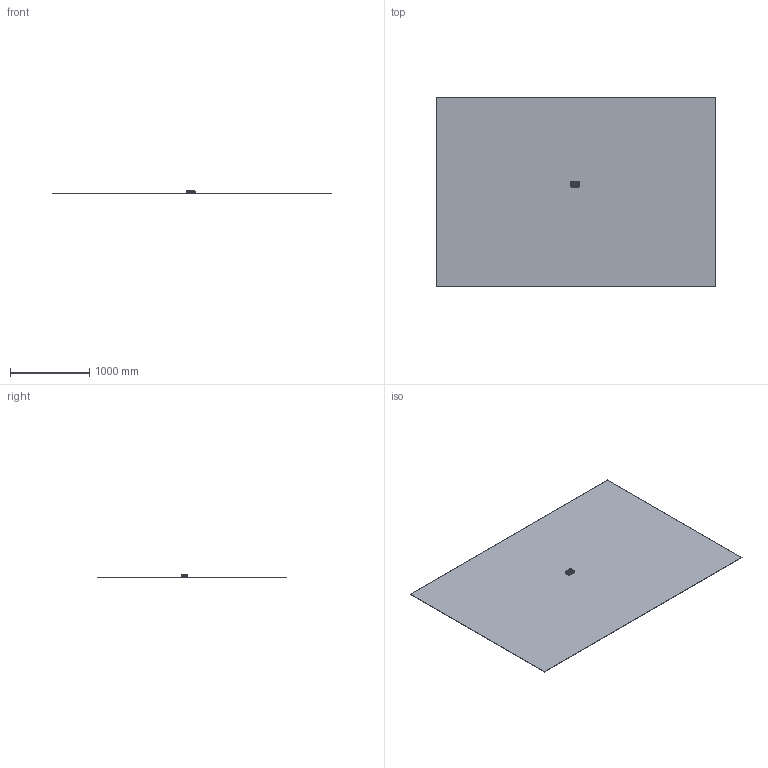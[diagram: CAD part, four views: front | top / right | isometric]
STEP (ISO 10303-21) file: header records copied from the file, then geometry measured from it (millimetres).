
FILE_DESCRIPTION(/* description */ (''),/* implementation_level */ '2;1');
FILE_NAME(/* name */ 'Pi 5 case v5.step',/* time_stamp */ '2024-09-08T10:51:01+01:00',/* author */ (''),/* organization */ (''),/* preprocessor_version */ 'ST-DEVELOPER v20',/* originating_system */ 'Autodesk Translation Framework v13.14.0.145',/* authorisation */ '');
FILE_SCHEMA (('AUTOMOTIVE_DESIGN { 1 0 10303 214 3 1 1 }'));
Products named in the file (35): Pi 5 case; CASE; TOP; FRONT; TOP (1); BOTTOM; M2.5X10_SELF_TAPING (2); M2.5X10_SELF_TAPING (1); M2.5X10_SELF_TAPING; M2.5X10_SELF_TAPING (5); M3X12_SHCS; 40x40x10 DC Fan v1; M3x5x4 heat-Insert; ACCESS_COVER; M2.5X10_SELF_TAPING (4); M2.5X10_SELF_TAPING (3); PI5_Holder; Pi5_mount; M2.5X8_SELF_TAPING; RP-004882-DD - Pi 5 Mechanical Reference 3D model Iss1; PCB_for REF 060923; GPIO Header for REF; Micro HDMI for REF; SD CARD for REF; USB-C for REF; RJ45 for REF; USB for REF; PCIe for REF; CAM-DISP for REF; LED for REF; BAT Header for REF; PoE Header for REF; FAN Header for REF; SWITCH for REF; UART for REF
Assembly tree (53 placements, depth 4):
  Pi 5 case
    CASE
      TOP
        FRONT
        TOP (1)
      BOTTOM
        M2.5X10_SELF_TAPING (2)
        M2.5X10_SELF_TAPING (1)
      M2.5X10_SELF_TAPING (5)  x3
      M2.5X10_SELF_TAPING  x6
      M3X12_SHCS  x4
      40x40x10 DC Fan v1
      M3x5x4 heat-Insert  x4
    ACCESS_COVER
      M2.5X10_SELF_TAPING (4)
      M2.5X10_SELF_TAPING (3)
    PI5_Holder
      Pi5_mount
      M2.5X8_SELF_TAPING  x4
      RP-004882-DD - Pi 5 Mechanical Reference 3D model Iss1
        PCB_for REF 060923
        GPIO Header for REF
        Micro HDMI for REF  x2
        SD CARD for REF
        USB-C for REF
        RJ45 for REF
        USB for REF  x2
        PCIe for REF
        CAM-DISP for REF  x2
        LED for REF
        BAT Header for REF
        PoE Header for REF
        FAN Header for REF
        SWITCH for REF
        UART for REF
Bounding box: 3522.52 x 2390.64 x 45.05 mm (x, y, z)
Volume: 42236159.7 mm3; surface area: 16997449.2 mm2
Topology: 79 solids, 81 shells, 4741 faces, 12431 edges, 8070 vertices
Faces by surface type: plane 3070, cylinder 1070, bspline 355, cone 214, sphere 21, torus 11
Full cylindrical faces by diameter (mm): 0.6 x2, 1 x86, 2 x18, 2.5 x17, 2.7 x4, 2.8 x13, 2.9 x4, 3 x6, 3.3 x4, 3.45 x4, 4.2 x4, 4.25 x4, 4.5 x17, 4.6 x4, 5 x3, 5.3 x4, 5.7 x4, 6 x2, 10 x4, 18.8 x1, 19.2 x1, 20 x1, 38 x2
Entity records: 115496 total; most frequent: CARTESIAN_POINT 27894, ORIENTED_EDGE 18174, DIRECTION 17540, EDGE_CURVE 9087, LINE 6876, VECTOR 6876, VERTEX_POINT 5917, AXIS2_PLACEMENT_3D 5332
